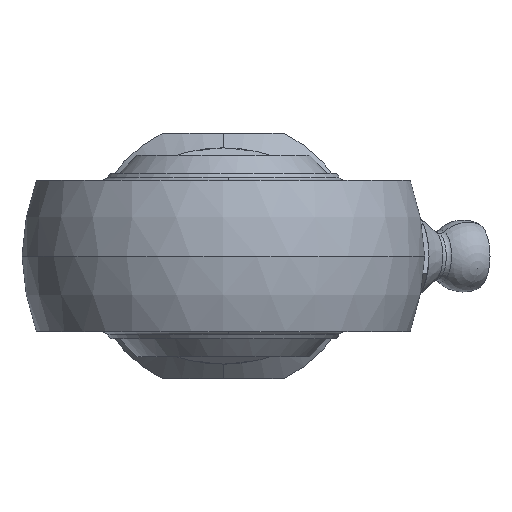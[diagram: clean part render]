
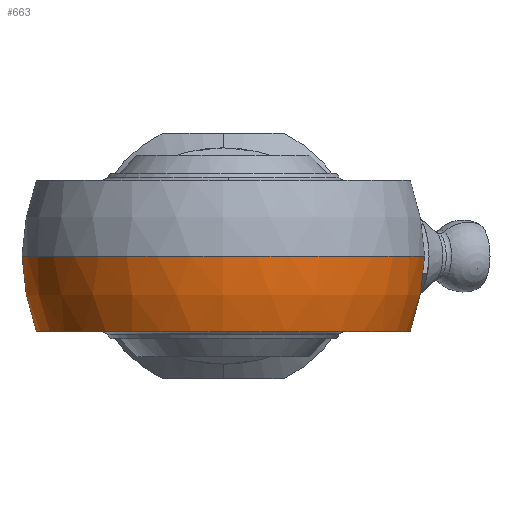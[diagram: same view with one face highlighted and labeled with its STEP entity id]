
A CAD part, left-side view. The second image highlights one B-rep face of the part: STEP entity #663.
In plain terms, the highlighted spherical face has radius 14 mm.
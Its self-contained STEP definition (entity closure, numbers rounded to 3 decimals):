
#449 = EDGE_CURVE ( 'NONE', #647, #650, #1774, .T. ) ;
#643 = EDGE_LOOP ( 'NONE', ( #644, #652, #679, #681, #685 ) ) ;
#644 = ORIENTED_EDGE ( 'NONE', *, *, #449, .T. ) ;
#647 = VERTEX_POINT ( 'NONE', #2087 ) ;
#650 = VERTEX_POINT ( 'NONE', #2124 ) ;
#652 = ORIENTED_EDGE ( 'NONE', *, *, #687, .T. ) ;
#663 = ADVANCED_FACE ( 'NONE', ( #2176 ), #2175, .T. ) ;
#677 = VERTEX_POINT ( 'NONE', #2185 ) ;
#678 = VERTEX_POINT ( 'NONE', #2184 ) ;
#679 = ORIENTED_EDGE ( 'NONE', *, *, #680, .F. ) ;
#680 = EDGE_CURVE ( 'NONE', #677, #678, #2248, .T. ) ;
#681 = ORIENTED_EDGE ( 'NONE', *, *, #682, .T. ) ;
#682 = EDGE_CURVE ( 'NONE', #677, #683, #2218, .T. ) ;
#683 = VERTEX_POINT ( 'NONE', #2219 ) ;
#684 = EDGE_CURVE ( 'NONE', #683, #647, #2214, .T. ) ;
#685 = ORIENTED_EDGE ( 'NONE', *, *, #684, .T. ) ;
#687 = EDGE_CURVE ( 'NONE', #650, #678, #2276, .T. ) ;
#1770 = DIRECTION ( 'NONE',  ( 0., 0., 1. ) ) ;
#1771 = DIRECTION ( 'NONE',  ( -1., 0., 0. ) ) ;
#1772 = CARTESIAN_POINT ( 'NONE',  ( 5.828, 0., 0. ) ) ;
#1773 = AXIS2_PLACEMENT_3D ( 'NONE', #1772, #1771, #1770 ) ;
#1774 = CIRCLE ( 'NONE', #1773, 12.729 ) ;
#2087 = CARTESIAN_POINT ( 'NONE',  ( 5.828, -11.596, -5.25 ) ) ;
#2124 = CARTESIAN_POINT ( 'NONE',  ( 5.828, -12.729, 0. ) ) ;
#2135 = DIRECTION ( 'NONE',  ( 0., 1., 0. ) ) ;
#2136 = DIRECTION ( 'NONE',  ( 0., 0., -1. ) ) ;
#2137 = CARTESIAN_POINT ( 'NONE',  ( 0., 0., 0. ) ) ;
#2138 = AXIS2_PLACEMENT_3D ( 'NONE', #2137, #2136, #2135 ) ;
#2175 = SPHERICAL_SURFACE ( 'NONE', #2138, 14. ) ;
#2176 = FACE_OUTER_BOUND ( 'NONE', #643, .T. ) ;
#2184 = CARTESIAN_POINT ( 'NONE',  ( -14., 0., 0. ) ) ;
#2185 = CARTESIAN_POINT ( 'NONE',  ( 5.828, 12.729, 0. ) ) ;
#2211 = DIRECTION ( 'NONE',  ( 0., 0., 1. ) ) ;
#2212 = CARTESIAN_POINT ( 'NONE',  ( 0., 0., -5.25 ) ) ;
#2213 = AXIS2_PLACEMENT_3D ( 'NONE', #2212, #2211, #2284 ) ;
#2214 = CIRCLE ( 'NONE', #2213, 12.978 ) ;
#2215 = DIRECTION ( 'NONE',  ( 0., 0., 1. ) ) ;
#2216 = DIRECTION ( 'NONE',  ( -1., 0., 0. ) ) ;
#2217 = AXIS2_PLACEMENT_3D ( 'NONE', #2249, #2216, #2215 ) ;
#2218 = CIRCLE ( 'NONE', #2217, 12.729 ) ;
#2219 = CARTESIAN_POINT ( 'NONE',  ( 5.828, 11.596, -5.25 ) ) ;
#2244 = DIRECTION ( 'NONE',  ( 1., 0., 0. ) ) ;
#2245 = DIRECTION ( 'NONE',  ( 0., 0., 1. ) ) ;
#2246 = CARTESIAN_POINT ( 'NONE',  ( 0., 0., 0. ) ) ;
#2247 = AXIS2_PLACEMENT_3D ( 'NONE', #2246, #2245, #2244 ) ;
#2248 = CIRCLE ( 'NONE', #2247, 14. ) ;
#2249 = CARTESIAN_POINT ( 'NONE',  ( 5.828, 0., 0. ) ) ;
#2272 = DIRECTION ( 'NONE',  ( 0., 1., 0. ) ) ;
#2273 = DIRECTION ( 'NONE',  ( 0., 0., -1. ) ) ;
#2274 = CARTESIAN_POINT ( 'NONE',  ( 0., 0., 0. ) ) ;
#2275 = AXIS2_PLACEMENT_3D ( 'NONE', #2274, #2273, #2272 ) ;
#2276 = CIRCLE ( 'NONE', #2275, 14. ) ;
#2284 = DIRECTION ( 'NONE',  ( 1., 0., 0. ) ) ;
